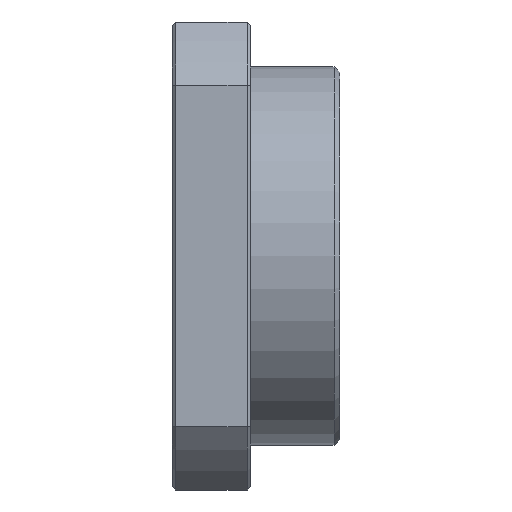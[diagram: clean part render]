
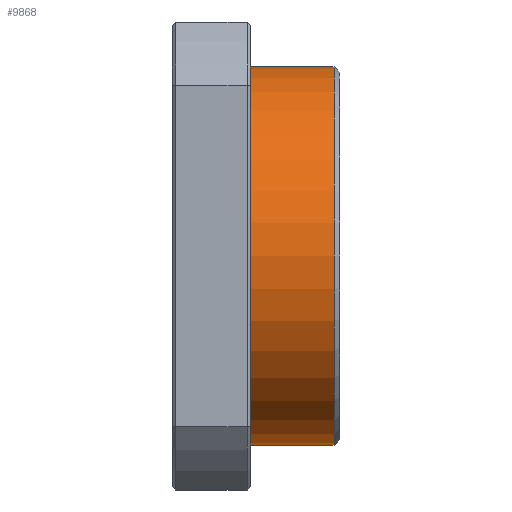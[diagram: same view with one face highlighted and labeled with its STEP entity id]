
A CAD part, front view. The second image highlights one B-rep face of the part: STEP entity #9868.
In plain terms, the highlighted cylindrical face has radius 17 mm (diameter 34 mm), a partial arc.
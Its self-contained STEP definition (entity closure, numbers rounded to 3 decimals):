
#129 = DIRECTION ( 'NONE',  ( -1., 0., 0. ) ) ;
#1053 = DIRECTION ( 'NONE',  ( -1., 0., 0. ) ) ;
#1189 = ORIENTED_EDGE ( 'NONE', *, *, #2223, .T. ) ;
#2080 = CARTESIAN_POINT ( 'NONE',  ( -46.372, -3.404, 17. ) ) ;
#2223 = EDGE_CURVE ( 'NONE', #9835, #8425, #13846, .T. ) ;
#2248 = CARTESIAN_POINT ( 'NONE',  ( 49.775, -3.404, 17. ) ) ;
#2500 = CARTESIAN_POINT ( 'NONE',  ( 42.275, -3.404, -17. ) ) ;
#3471 = VERTEX_POINT ( 'NONE', #6424 ) ;
#3526 = CARTESIAN_POINT ( 'NONE',  ( 42.275, -3.404, 0. ) ) ;
#3577 = ORIENTED_EDGE ( 'NONE', *, *, #3632, .F. ) ;
#3632 = EDGE_CURVE ( 'NONE', #3471, #8425, #15000, .T. ) ;
#4734 = LINE ( 'NONE', #2080, #8924 ) ;
#5344 = VECTOR ( 'NONE', #7776, 1000. ) ;
#5786 = ORIENTED_EDGE ( 'NONE', *, *, #18707, .T. ) ;
#5852 = EDGE_LOOP ( 'NONE', ( #3577, #18584, #5786, #1189 ) ) ;
#6424 = CARTESIAN_POINT ( 'NONE',  ( 49.775, -3.404, -17. ) ) ;
#6454 = CARTESIAN_POINT ( 'NONE',  ( 42.275, -3.404, 17. ) ) ;
#7028 = CYLINDRICAL_SURFACE ( 'NONE', #17193, 17. ) ;
#7202 = DIRECTION ( 'NONE',  ( 0., 0., 1. ) ) ;
#7776 = DIRECTION ( 'NONE',  ( -1., 0., 0. ) ) ;
#7834 = AXIS2_PLACEMENT_3D ( 'NONE', #17255, #129, #11633 ) ;
#7901 = DIRECTION ( 'NONE',  ( 1., 0., 0. ) ) ;
#8425 = VERTEX_POINT ( 'NONE', #2500 ) ;
#8919 = CARTESIAN_POINT ( 'NONE',  ( -46.372, -3.404, -17. ) ) ;
#8924 = VECTOR ( 'NONE', #13767, 1000. ) ;
#9835 = VERTEX_POINT ( 'NONE', #6454 ) ;
#9868 = ADVANCED_FACE ( 'NONE', ( #10053 ), #7028, .T. ) ;
#10053 = FACE_OUTER_BOUND ( 'NONE', #5852, .T. ) ;
#11620 = EDGE_CURVE ( 'NONE', #3471, #17988, #17247, .T. ) ;
#11633 = DIRECTION ( 'NONE',  ( 0., 0., 1. ) ) ;
#12734 = CARTESIAN_POINT ( 'NONE',  ( -46.372, -3.404, 0. ) ) ;
#13767 = DIRECTION ( 'NONE',  ( -1., 0., 0. ) ) ;
#13846 = CIRCLE ( 'NONE', #16219, 17. ) ;
#15000 = LINE ( 'NONE', #8919, #5344 ) ;
#16219 = AXIS2_PLACEMENT_3D ( 'NONE', #3526, #7901, #17889 ) ;
#17193 = AXIS2_PLACEMENT_3D ( 'NONE', #12734, #1053, #7202 ) ;
#17247 = CIRCLE ( 'NONE', #7834, 17. ) ;
#17255 = CARTESIAN_POINT ( 'NONE',  ( 49.775, -3.404, 0. ) ) ;
#17889 = DIRECTION ( 'NONE',  ( 0., 0., 1. ) ) ;
#17988 = VERTEX_POINT ( 'NONE', #2248 ) ;
#18584 = ORIENTED_EDGE ( 'NONE', *, *, #11620, .T. ) ;
#18707 = EDGE_CURVE ( 'NONE', #17988, #9835, #4734, .T. ) ;
